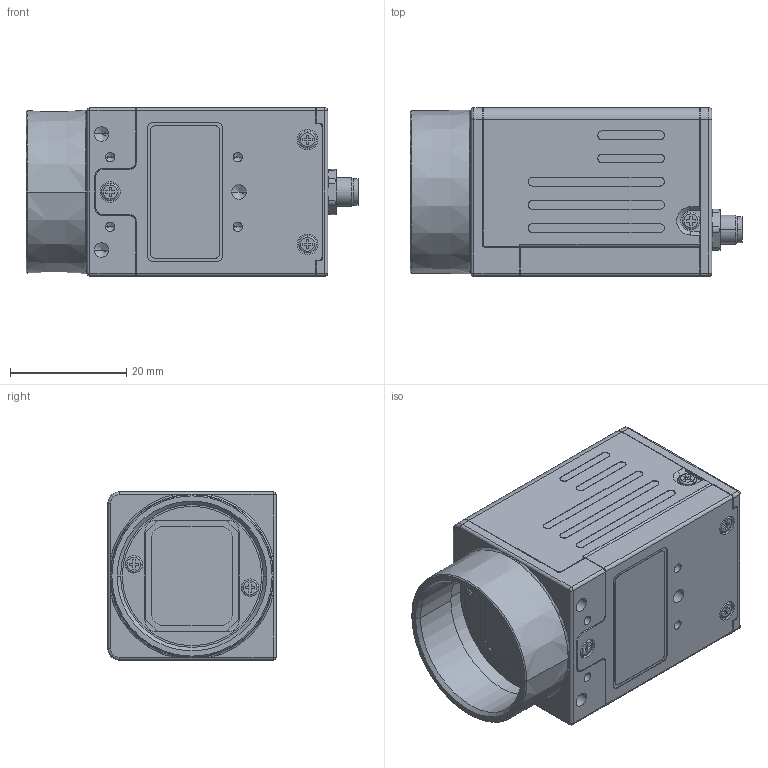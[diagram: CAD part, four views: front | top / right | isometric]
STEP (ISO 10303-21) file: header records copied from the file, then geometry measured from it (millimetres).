
FILE_DESCRIPTION((''),'2;1');
FILE_NAME('GO-5000M-PMCL-EP_MOCK','2023-10-20T14:24:51',('aso'),(''),'CREO PARAMETRIC BY PTC INC, 2019352','CREO PARAMETRIC BY PTC INC, 2019352','');
FILE_SCHEMA(('AUTOMOTIVE_DESIGN { 1 0 10303 214 1 1 1 1 }'));
Products named in the file (1): GO-5000M-PMCL-EP_MOCK
Bounding box: 57.2 x 29 x 29 mm (x, y, z)
Volume: 12222.9 mm3; surface area: 19349.3 mm2
Topology: 1 solids, 22 shells, 3853 faces, 10926 edges, 7037 vertices
Faces by surface type: plane 2562, cylinder 878, torus 189, cone 129, sphere 65, bspline 30
Entity records: 168743 total; most frequent: CARTESIAN_POINT 24592, ORIENTED_EDGE 21704, DIRECTION 20359, PRESENTATION_STYLE_ASSIGNMENT 11741, STYLED_ITEM 10853, CURVE_STYLE 10852, EDGE_CURVE 10852, VECTOR 7941
